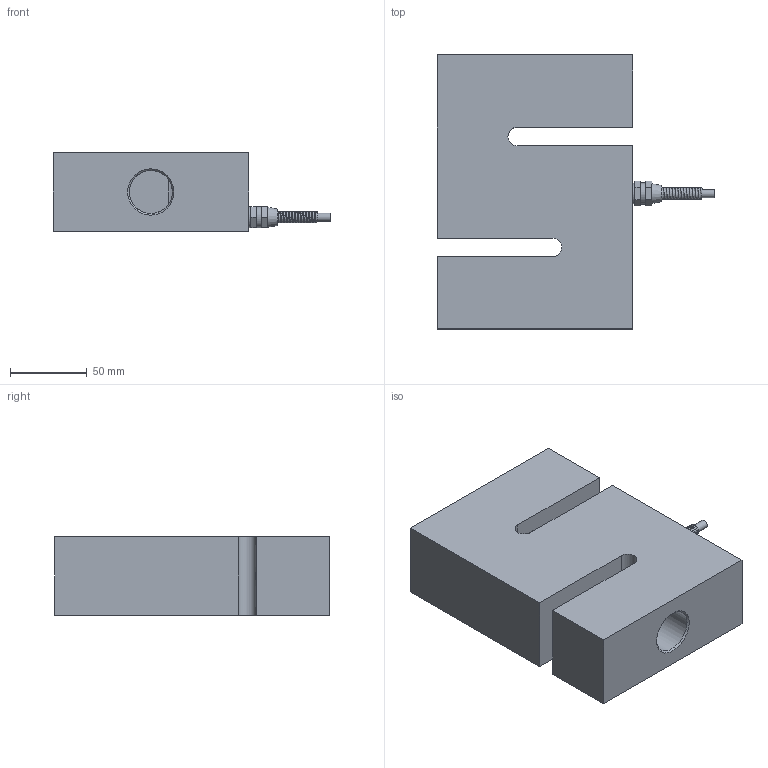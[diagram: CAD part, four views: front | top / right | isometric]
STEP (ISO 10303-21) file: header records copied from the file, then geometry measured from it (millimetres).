
FILE_DESCRIPTION (( 'STEP AP214' ), '1' );
FILE_NAME ('3D_KM1502-100KN.STEP', '2013-06-24T07:57:55', ( 'mega' ), ( 'mega' ), 'SwSTEP 2.0', 'SolidWorks 2012', '' );
FILE_SCHEMA (( 'AUTOMOTIVE_DESIGN' ));
Length unit declared in the file: millimetre
Products named in the file (1): 3D_KM1502-100KN
Bounding box: 180.5 x 178 x 50.8 mm (x, y, z)
Volume: 996987.4 mm3; surface area: 96915.9 mm2
Topology: 1 solids, 1 shells, 52 faces, 127 edges, 80 vertices
Faces by surface type: plane 41, cylinder 7, cone 3, bspline 1
Full cylindrical faces by diameter (mm): 5.2 x1, 13.5 x1, 13.856 x1, 28 x2
Entity records: 5306 total; most frequent: CARTESIAN_POINT 4046, DIRECTION 244, ORIENTED_EDGE 228, EDGE_CURVE 114, LINE 82, VECTOR 82, AXIS2_PLACEMENT_3D 81, VERTEX_POINT 76
